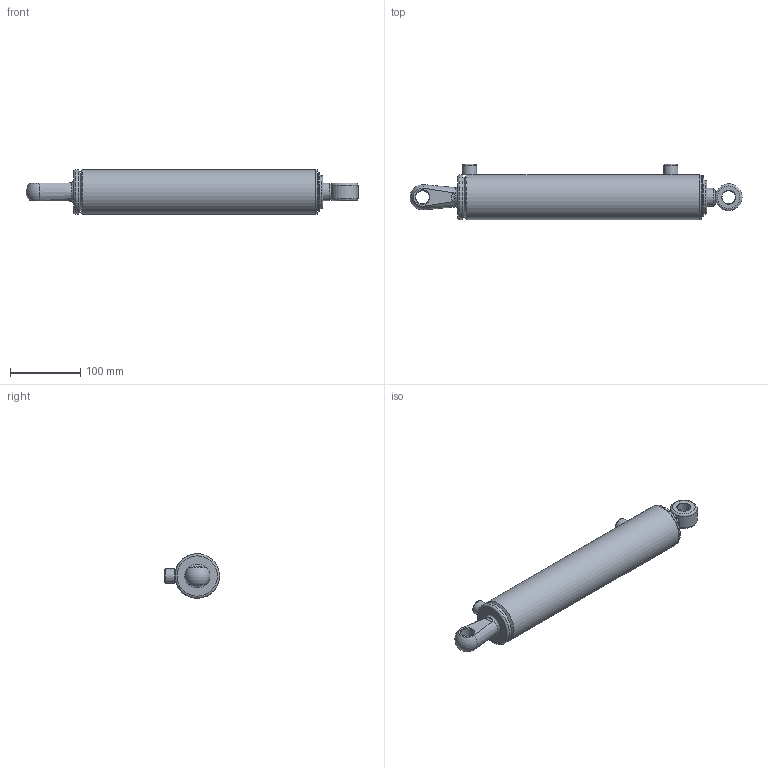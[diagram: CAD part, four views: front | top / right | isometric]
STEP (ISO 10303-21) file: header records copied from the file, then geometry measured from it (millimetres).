
FILE_DESCRIPTION(/* description */ ('Alibre Inc.'),/* implementation_level */ '2;1');
FILE_NAME(/* name */ 'export0',/* time_stamp */ '2016-08-16T09:50:14+12:00',/* author */ (''),/* organization */ (''),/* preprocessor_version */ 'ST-DEVELOPER v14',/* originating_system */ 'Alibre',/* authorisation */ '');
FILE_SCHEMA (('AUTOMOTIVE_DESIGN'));
Length unit declared in the file: centimetre
Bounding box: 472.94 x 78.5 x 63.5 mm (x, y, z)
Volume: 758580.1 mm3; surface area: 212666.9 mm2
Topology: 11 solids, 11 shells, 138 faces, 278 edges, 173 vertices
Faces by surface type: cylinder 51, plane 44, cone 27, torus 13, bspline 2, sphere 1
Full cylindrical faces by diameter (mm): 2.5 x2, 5.588 x1, 6.35 x2, 8.3 x2, 11.9 x2, 17.323 x2, 19.05 x2, 19.101 x1, 20 x2, 25.4 x1, 25.45 x2, 31.77 x1, 31.8 x1, 32.5 x1, 34.93 x2, 38.1 x1, 41.3 x2, 44.91 x1, 45.5 x1, 46.23 x2, 48 x2, 48.3 x1, 49.48 x2, 50.07 x1, 50.69 x2, 50.8 x2, 54 x1, 63.5 x3
Entity records: 3664 total; most frequent: CARTESIAN_POINT 968, DIRECTION 530, ORIENTED_EDGE 330, AXIS2_PLACEMENT_3D 283, FACE_BOUND 258, EDGE_LOOP 256, EDGE_CURVE 165, VERTEX_POINT 153
